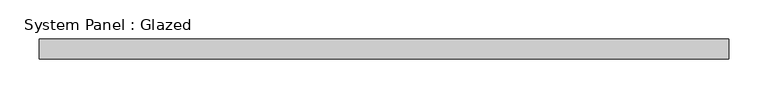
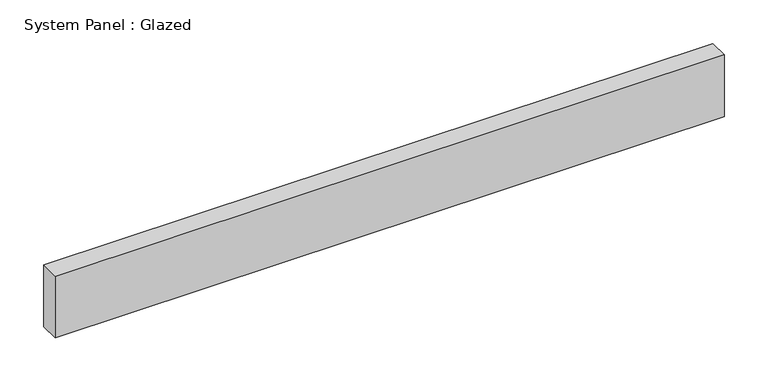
"""IFC4 building model written with IfcOpenShell, lengths in millimetres: plate geometry, System Panel : Glazed."""

from ifc_helpers import new_model, si_unit, origin, origin_with_axes, place, context, project, spatial, polyline, outline, extrude, source, transform, mapped, element, save


def system_panel_glazed_1be0de3c(model_context):
    return source(origin(), model_context, "Body", "SweptSolid", [
        extrude(outline(polyline([(440.1829802, 19.05), (-440.1829802, 19.05), (-440.1829802, 44.45), (440.1829802, 44.45), (440.1829802, 19.05)])), origin_with_axes(), (0.0, 0.0, 1.0), 85.6919949),
    ])


if __name__ == "__main__":
    model = new_model("IFC4")
    model_context = context("Model", 3, world=origin())
    ifc_project = project(units=[si_unit("LENGTHUNIT", "METRE", prefix="MILLI")], contexts=[model_context])
    site = spatial("IfcSite", under=ifc_project)
    building = spatial("IfcBuilding", under=site)
    placement = place(None, origin())
    system_panel_glazed_shape = system_panel_glazed_1be0de3c(model_context)
    element("IfcPlate", 1, ObjectType="System Panel : Glazed", at=placement, inside=building, context=model_context, shape_type="MappedRepresentation", body=[
        mapped(system_panel_glazed_shape, transform((0.0, 0.0, 0.0), x_axis=(1.0, 0.0, 0.0), y_axis=(0.0, 1.0, 0.0), z_axis=(0.0, 0.0, 1.0))),
    ])
    save(model, "model.ifc")
